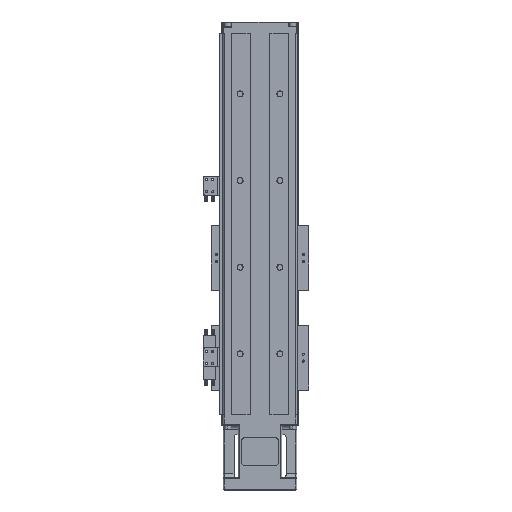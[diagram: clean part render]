
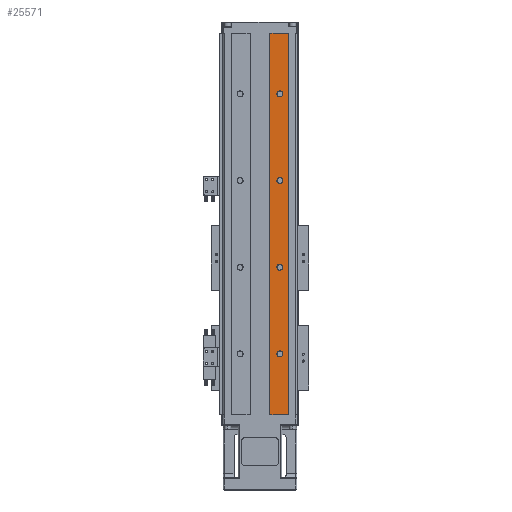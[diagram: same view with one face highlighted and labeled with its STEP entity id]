
A CAD part, front view. The second image highlights one B-rep face of the part: STEP entity #25571.
In plain terms, the highlighted planar face has unit normal (0, -1, 0).
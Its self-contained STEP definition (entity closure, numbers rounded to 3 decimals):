
#800 = FACE_BOUND ( 'NONE', #49158, .T. ) ;
#1972 = EDGE_CURVE ( 'NONE', #8252, #7058, #12335, .T. ) ;
#2107 = AXIS2_PLACEMENT_3D ( 'NONE', #42011, #50469, #16211 ) ;
#2472 = CARTESIAN_POINT ( 'NONE',  ( 11.5, 0., 440. ) ) ;
#2604 = EDGE_CURVE ( 'NONE', #54536, #15516, #3561, .T. ) ;
#2919 = CARTESIAN_POINT ( 'NONE',  ( 23., 0., 173.5 ) ) ;
#2997 = DIRECTION ( 'NONE',  ( -1., 0., 0. ) ) ;
#3217 = CARTESIAN_POINT ( 'NONE',  ( 23., 0., 266.5 ) ) ;
#3561 = CIRCLE ( 'NONE', #25547, 3.5 ) ;
#4146 = FACE_BOUND ( 'NONE', #23135, .T. ) ;
#4999 = DIRECTION ( 'NONE',  ( 0., 0., -1. ) ) ;
#5829 = CARTESIAN_POINT ( 'NONE',  ( 23., 0., 166.5 ) ) ;
#6750 = ORIENTED_EDGE ( 'NONE', *, *, #37474, .T. ) ;
#7058 = VERTEX_POINT ( 'NONE', #19415 ) ;
#7661 = EDGE_CURVE ( 'NONE', #41700, #33275, #52004, .T. ) ;
#8059 = AXIS2_PLACEMENT_3D ( 'NONE', #27396, #52656, #22893 ) ;
#8252 = VERTEX_POINT ( 'NONE', #43682 ) ;
#9636 = ORIENTED_EDGE ( 'NONE', *, *, #11647, .F. ) ;
#10033 = CARTESIAN_POINT ( 'NONE',  ( 32.5, 0., 440. ) ) ;
#10303 = ORIENTED_EDGE ( 'NONE', *, *, #24664, .T. ) ;
#10404 = EDGE_CURVE ( 'NONE', #53839, #13455, #49964, .T. ) ;
#11049 = ORIENTED_EDGE ( 'NONE', *, *, #24407, .T. ) ;
#11647 = EDGE_CURVE ( 'NONE', #52082, #8252, #14090, .T. ) ;
#12226 = AXIS2_PLACEMENT_3D ( 'NONE', #36929, #19261, #41479 ) ;
#12335 = LINE ( 'NONE', #41762, #40687 ) ;
#13177 = DIRECTION ( 'NONE',  ( 0., 1., 0. ) ) ;
#13455 = VERTEX_POINT ( 'NONE', #45562 ) ;
#13469 = CARTESIAN_POINT ( 'NONE',  ( 43., 0., 440. ) ) ;
#14090 = LINE ( 'NONE', #39065, #33664 ) ;
#14858 = DIRECTION ( 'NONE',  ( 0., 0., -1. ) ) ;
#15516 = VERTEX_POINT ( 'NONE', #34028 ) ;
#15729 = CIRCLE ( 'NONE', #32916, 3.5 ) ;
#16211 = DIRECTION ( 'NONE',  ( 0., 0., -1. ) ) ;
#16341 = CARTESIAN_POINT ( 'NONE',  ( 43., 0., 440. ) ) ;
#17390 = CARTESIAN_POINT ( 'NONE',  ( 23., 0., 70. ) ) ;
#19127 = CIRCLE ( 'NONE', #28168, 3.5 ) ;
#19261 = DIRECTION ( 'NONE',  ( 0., 1., 0. ) ) ;
#19415 = CARTESIAN_POINT ( 'NONE',  ( 11.5, 0., 0. ) ) ;
#19991 = EDGE_CURVE ( 'NONE', #15516, #54536, #48553, .T. ) ;
#21116 = DIRECTION ( 'NONE',  ( 0., 1., 0. ) ) ;
#21157 = ORIENTED_EDGE ( 'NONE', *, *, #34479, .T. ) ;
#21247 = DIRECTION ( 'NONE',  ( 0., 0., -1. ) ) ;
#21776 = ORIENTED_EDGE ( 'NONE', *, *, #1972, .F. ) ;
#21827 = CARTESIAN_POINT ( 'NONE',  ( 23., 0., 273.5 ) ) ;
#22031 = VERTEX_POINT ( 'NONE', #5829 ) ;
#22191 = VERTEX_POINT ( 'NONE', #2472 ) ;
#22893 = DIRECTION ( 'NONE',  ( 0., 0., -1. ) ) ;
#22982 = AXIS2_PLACEMENT_3D ( 'NONE', #34085, #13177, #38237 ) ;
#23041 = CIRCLE ( 'NONE', #22982, 3.5 ) ;
#23135 = EDGE_LOOP ( 'NONE', ( #6750, #34582 ) ) ;
#23301 = DIRECTION ( 'NONE',  ( 0., 1., 0. ) ) ;
#24336 = FACE_OUTER_BOUND ( 'NONE', #53567, .T. ) ;
#24407 = EDGE_CURVE ( 'NONE', #13455, #53839, #15729, .T. ) ;
#24664 = EDGE_CURVE ( 'NONE', #22031, #52290, #19127, .T. ) ;
#25191 = ORIENTED_EDGE ( 'NONE', *, *, #10404, .T. ) ;
#25547 = AXIS2_PLACEMENT_3D ( 'NONE', #17390, #39412, #30556 ) ;
#25571 = ADVANCED_FACE ( 'NONE', ( #24336, #800, #4146, #45254, #36499 ), #39298, .T. ) ;
#25847 = LINE ( 'NONE', #53611, #53502 ) ;
#26439 = DIRECTION ( 'NONE',  ( 0., -1., 0. ) ) ;
#27396 = CARTESIAN_POINT ( 'NONE',  ( 23., 0., 270. ) ) ;
#27435 = CARTESIAN_POINT ( 'NONE',  ( 23., 0., 170. ) ) ;
#28168 = AXIS2_PLACEMENT_3D ( 'NONE', #27435, #23301, #14858 ) ;
#30313 = VECTOR ( 'NONE', #45909, 1000. ) ;
#30514 = EDGE_LOOP ( 'NONE', ( #37078, #46111 ) ) ;
#30556 = DIRECTION ( 'NONE',  ( 0., 0., -1. ) ) ;
#32146 = DIRECTION ( 'NONE',  ( 0., 0., 1. ) ) ;
#32916 = AXIS2_PLACEMENT_3D ( 'NONE', #38422, #21116, #51405 ) ;
#33275 = VERTEX_POINT ( 'NONE', #3217 ) ;
#33420 = EDGE_CURVE ( 'NONE', #52290, #22031, #37851, .T. ) ;
#33664 = VECTOR ( 'NONE', #38877, 1000. ) ;
#34028 = CARTESIAN_POINT ( 'NONE',  ( 23., 0., 66.5 ) ) ;
#34085 = CARTESIAN_POINT ( 'NONE',  ( 23., 0., 270. ) ) ;
#34479 = EDGE_CURVE ( 'NONE', #52082, #22191, #47794, .T. ) ;
#34582 = ORIENTED_EDGE ( 'NONE', *, *, #7661, .T. ) ;
#35443 = AXIS2_PLACEMENT_3D ( 'NONE', #42714, #47033, #21247 ) ;
#36499 = FACE_BOUND ( 'NONE', #30514, .T. ) ;
#36929 = CARTESIAN_POINT ( 'NONE',  ( 23., 0., 370. ) ) ;
#37078 = ORIENTED_EDGE ( 'NONE', *, *, #19991, .T. ) ;
#37474 = EDGE_CURVE ( 'NONE', #33275, #41700, #23041, .T. ) ;
#37851 = CIRCLE ( 'NONE', #35443, 3.5 ) ;
#38237 = DIRECTION ( 'NONE',  ( 0., 0., -1. ) ) ;
#38422 = CARTESIAN_POINT ( 'NONE',  ( 23., 0., 370. ) ) ;
#38742 = EDGE_LOOP ( 'NONE', ( #10303, #49360 ) ) ;
#38877 = DIRECTION ( 'NONE',  ( 0., 0., -1. ) ) ;
#39065 = CARTESIAN_POINT ( 'NONE',  ( 32.5, 0., 440. ) ) ;
#39298 = PLANE ( 'NONE',  #55336 ) ;
#39412 = DIRECTION ( 'NONE',  ( 0., 1., 0. ) ) ;
#39427 = ORIENTED_EDGE ( 'NONE', *, *, #55363, .F. ) ;
#40687 = VECTOR ( 'NONE', #2997, 1000. ) ;
#41479 = DIRECTION ( 'NONE',  ( 0., 0., -1. ) ) ;
#41700 = VERTEX_POINT ( 'NONE', #21827 ) ;
#41762 = CARTESIAN_POINT ( 'NONE',  ( 43., 0., 0. ) ) ;
#42011 = CARTESIAN_POINT ( 'NONE',  ( 23., 0., 70. ) ) ;
#42714 = CARTESIAN_POINT ( 'NONE',  ( 23., 0., 170. ) ) ;
#43682 = CARTESIAN_POINT ( 'NONE',  ( 32.5, 0., 0. ) ) ;
#45254 = FACE_BOUND ( 'NONE', #38742, .T. ) ;
#45562 = CARTESIAN_POINT ( 'NONE',  ( 23., 0., 373.5 ) ) ;
#45909 = DIRECTION ( 'NONE',  ( -1., 0., 0. ) ) ;
#46111 = ORIENTED_EDGE ( 'NONE', *, *, #2604, .T. ) ;
#47033 = DIRECTION ( 'NONE',  ( 0., 1., 0. ) ) ;
#47638 = CARTESIAN_POINT ( 'NONE',  ( 23., 0., 73.5 ) ) ;
#47794 = LINE ( 'NONE', #16341, #30313 ) ;
#48251 = CARTESIAN_POINT ( 'NONE',  ( 23., 0., 366.5 ) ) ;
#48553 = CIRCLE ( 'NONE', #2107, 3.5 ) ;
#49158 = EDGE_LOOP ( 'NONE', ( #25191, #11049 ) ) ;
#49360 = ORIENTED_EDGE ( 'NONE', *, *, #33420, .T. ) ;
#49964 = CIRCLE ( 'NONE', #12226, 3.5 ) ;
#50469 = DIRECTION ( 'NONE',  ( 0., 1., 0. ) ) ;
#51405 = DIRECTION ( 'NONE',  ( 0., 0., -1. ) ) ;
#52004 = CIRCLE ( 'NONE', #8059, 3.5 ) ;
#52082 = VERTEX_POINT ( 'NONE', #10033 ) ;
#52290 = VERTEX_POINT ( 'NONE', #2919 ) ;
#52656 = DIRECTION ( 'NONE',  ( 0., 1., 0. ) ) ;
#53502 = VECTOR ( 'NONE', #32146, 1000. ) ;
#53567 = EDGE_LOOP ( 'NONE', ( #21776, #9636, #21157, #39427 ) ) ;
#53611 = CARTESIAN_POINT ( 'NONE',  ( 11.5, 0., 440. ) ) ;
#53839 = VERTEX_POINT ( 'NONE', #48251 ) ;
#54536 = VERTEX_POINT ( 'NONE', #47638 ) ;
#55336 = AXIS2_PLACEMENT_3D ( 'NONE', #13469, #26439, #4999 ) ;
#55363 = EDGE_CURVE ( 'NONE', #7058, #22191, #25847, .T. ) ;
